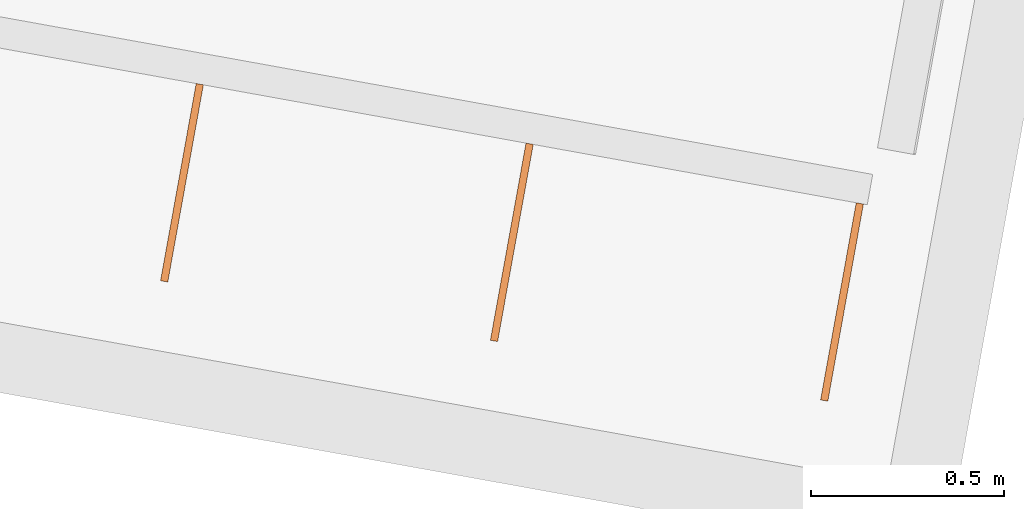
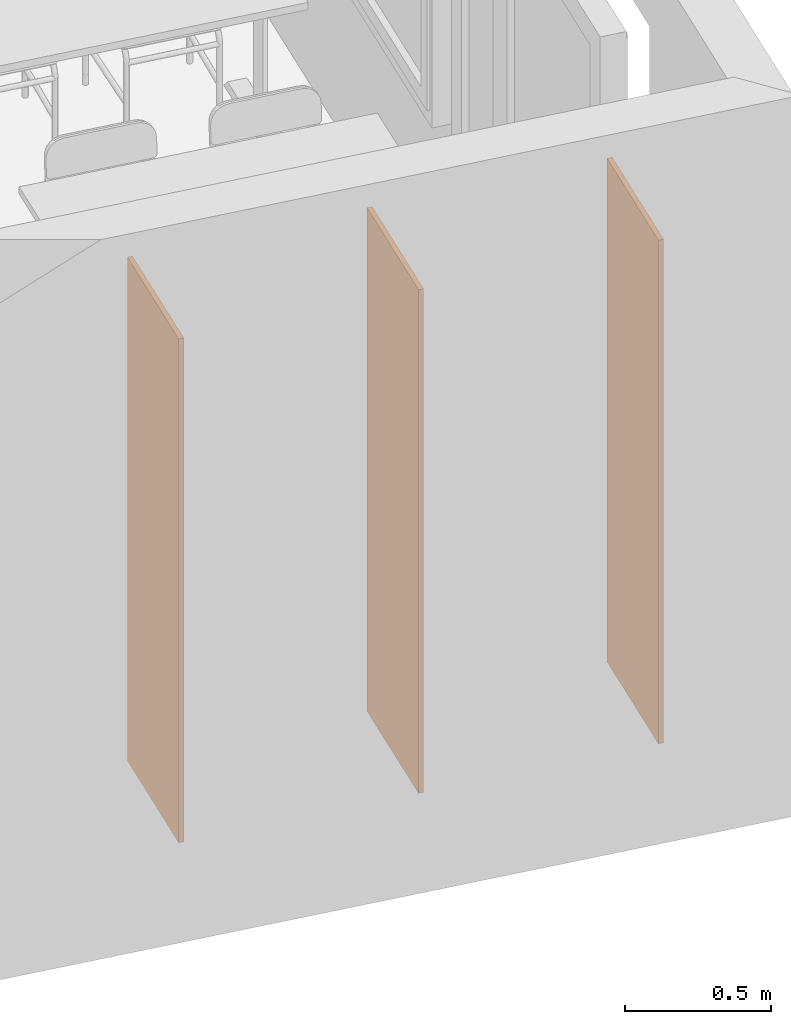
# One storey, part 24 of 79: 3 proxies.
"""IFC2X3 building model written with IfcOpenShell, lengths in metres."""

from ifc_helpers import new_model, entity, si_unit, converted_unit, derived_unit, money_unit, direction, frame, origin_with_axes, place, context, subcontext, project, spatial, polyline, outline, extrude, material, type_object, element, save


model = new_model("IFC2X3")

# Units and contexts
model_context = context("Model", 3, precision=1e-05, world=origin_with_axes(), true_north=direction((0.0, 1.0)))
body_context = subcontext(model_context, "Body", "Model", "MODEL_VIEW")
ifc_project = project(units=[si_unit("LENGTHUNIT", "METRE"), si_unit("AREAUNIT", "SQUARE_METRE"), si_unit("VOLUMEUNIT", "CUBIC_METRE"), converted_unit("PLANEANGLEUNIT", "DEGREE", entity("IfcPlaneAngleMeasure", 0.0174532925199), si_unit("PLANEANGLEUNIT", "RADIAN"), dimensions=[0, 0, 0, 0, 0, 0, 0]), money_unit("CHF"), converted_unit("TIMEUNIT", "Year", entity("IfcTimeMeasure", 31556926.0), si_unit("TIMEUNIT", "SECOND"), dimensions=[0, 0, 1, 0, 0, 0, 0]), si_unit("MASSUNIT", "GRAM", prefix="KILO"), si_unit("THERMODYNAMICTEMPERATUREUNIT", "DEGREE_CELSIUS"), si_unit("LUMINOUSINTENSITYUNIT", "LUMEN"), si_unit("ENERGYUNIT", "JOULE", prefix="MEGA"), derived_unit("THERMALCONDUCTANCEUNIT", [(si_unit("POWERUNIT", "WATT"), 1), (si_unit("LENGTHUNIT", "METRE"), -1), (si_unit("THERMODYNAMICTEMPERATUREUNIT", "KELVIN"), -1)]), derived_unit("SPECIFICHEATCAPACITYUNIT", [(si_unit("ENERGYUNIT", "JOULE"), 1), (si_unit("MASSUNIT", "GRAM", prefix="KILO"), -1), (si_unit("THERMODYNAMICTEMPERATUREUNIT", "KELVIN"), -1)]), derived_unit("MASSDENSITYUNIT", [(si_unit("MASSUNIT", "GRAM", prefix="KILO"), 1), (si_unit("VOLUMEUNIT", "CUBIC_METRE"), -1)])], contexts=[model_context])

# Site, building, storey
site_placement = place(None, frame((0.0, 0.0, 0.0), z_axis=(0.0, 0.0, 1.0), x_axis=(-0.177771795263, -0.984071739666, 0.0)))
site = spatial("IfcSite", under=ifc_project, at=site_placement, Name="Site", CompositionType="ELEMENT")
building_placement = place(site_placement, origin_with_axes())
building = spatial("IfcBuilding", under=site, at=building_placement, Name="Bâtiment", CompositionType="ELEMENT")
storey_placement = place(building_placement, origin_with_axes())
storey = spatial("IfcBuildingStorey", under=building, at=storey_placement, Name="RDC", CompositionType="ELEMENT", Elevation=0.0)

# Proxies
ifc_material = material(Name="_panneau mélaminé")
building_element_proxy_type = type_object("IfcBuildingElementProxyType", Name="_panneau mélaminé 19", PredefinedType="NOTDEFINED")
for number, where, z_axis, x_axis, name in (
    (1, (164.669841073, -149.367651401, 0.0), (0.0, 0.0, 1.0), (-1.0, 0.0, 0.0), "cloison pl-classe"),
    (2, (164.669841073, -150.237651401, 0.0), (0.0, 0.0, 1.0), (-1.0, 0.0, 0.0), "cloison pl-classe"),
):
    element("IfcBuildingElementProxy", number, at=place(storey_placement, frame(where, z_axis=z_axis, x_axis=x_axis)), inside=storey, type_object=building_element_proxy_type, material=ifc_material, Name=name, context=body_context, shape_type="SweptSolid", body=[
        extrude(outline(polyline([(0.0, -0.0095), (0.519999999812, -0.0095), (0.519999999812, 0.0095), (0.0, 0.0095), (0.0, -0.0095)])), origin_with_axes(), (0.0, 0.0, 1.0), 2.1),
    ])
proxy_placement = place(storey_placement, frame((164.669841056, -148.506152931, 0.0), z_axis=(0.0, 0.0, 1.0), x_axis=(-1.0, 0.0, 0.0)))
element("IfcBuildingElementProxy", 3, at=proxy_placement, inside=storey, type_object=building_element_proxy_type, material=ifc_material, Name="cloison pl-classe", context=body_context, shape_type="SweptSolid", body=[
    extrude(outline(polyline([(0.0, -0.019), (0.519999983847, -0.019), (0.519999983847, 0.0), (0.0, 0.0), (0.0, -0.019)])), origin_with_axes(), (0.0, 0.0, 1.0), 2.1),
])

save(model, "model.ifc")
